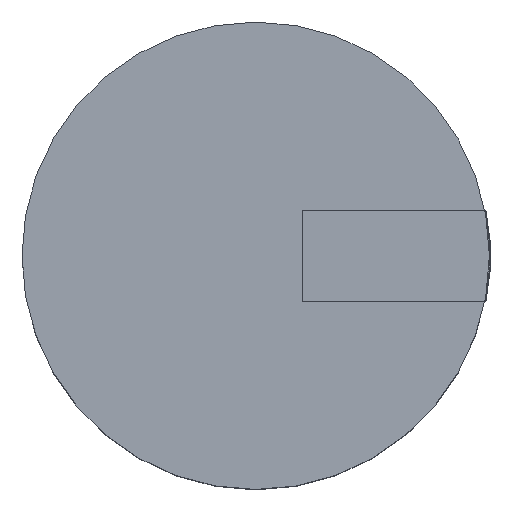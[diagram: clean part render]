
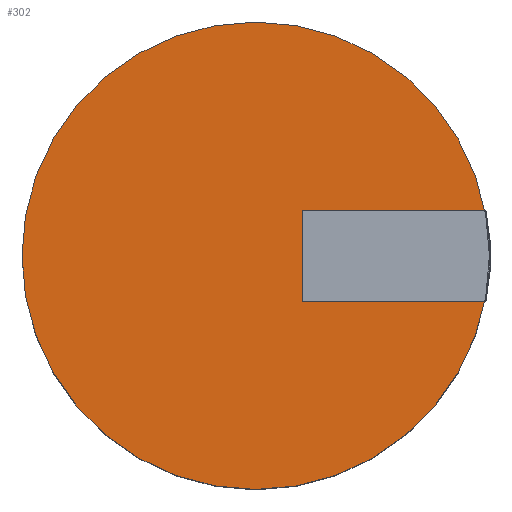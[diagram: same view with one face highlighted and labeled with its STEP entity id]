
A CAD part, top view. The second image highlights one B-rep face of the part: STEP entity #302.
In plain terms, the highlighted planar face has unit normal (0, 0, 1).
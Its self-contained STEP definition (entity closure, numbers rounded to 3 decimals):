
#302=ADVANCED_FACE($,(#308),#304,.T.);
#304=PLANE($,#329);
#308=FACE_OUTER_BOUND($,#312,.T.);
#312=EDGE_LOOP($,(#322));
#313=CIRCLE($,#326,7.506);
#315=VERTEX_POINT('',#344);
#317=EDGE_CURVE($,#315,#315,#313,.T.);
#322=ORIENTED_EDGE($,*,*,#317,.T.);
#326=AXIS2_PLACEMENT_3D($,#345,#334,#335);
#329=AXIS2_PLACEMENT_3D($,#349,#340,#341);
#334=DIRECTION('',(0.,0.,1.));
#335=DIRECTION('',(1.,0.,0.));
#340=DIRECTION('',(0.,0.,1.));
#341=DIRECTION('',(0.,1.,0.));
#344=CARTESIAN_POINT('',(-3.708,0.0,7.493));
#345=CARTESIAN_POINT('',(3.797,0.0,7.493));
#349=CARTESIAN_POINT('',(3.797,0.0,7.493));
